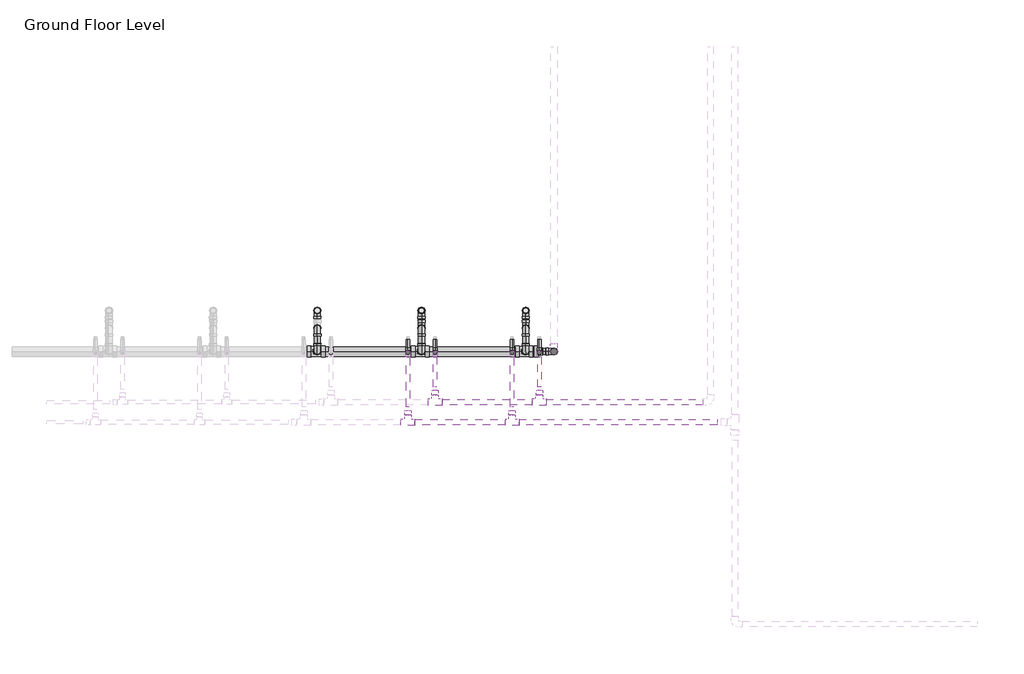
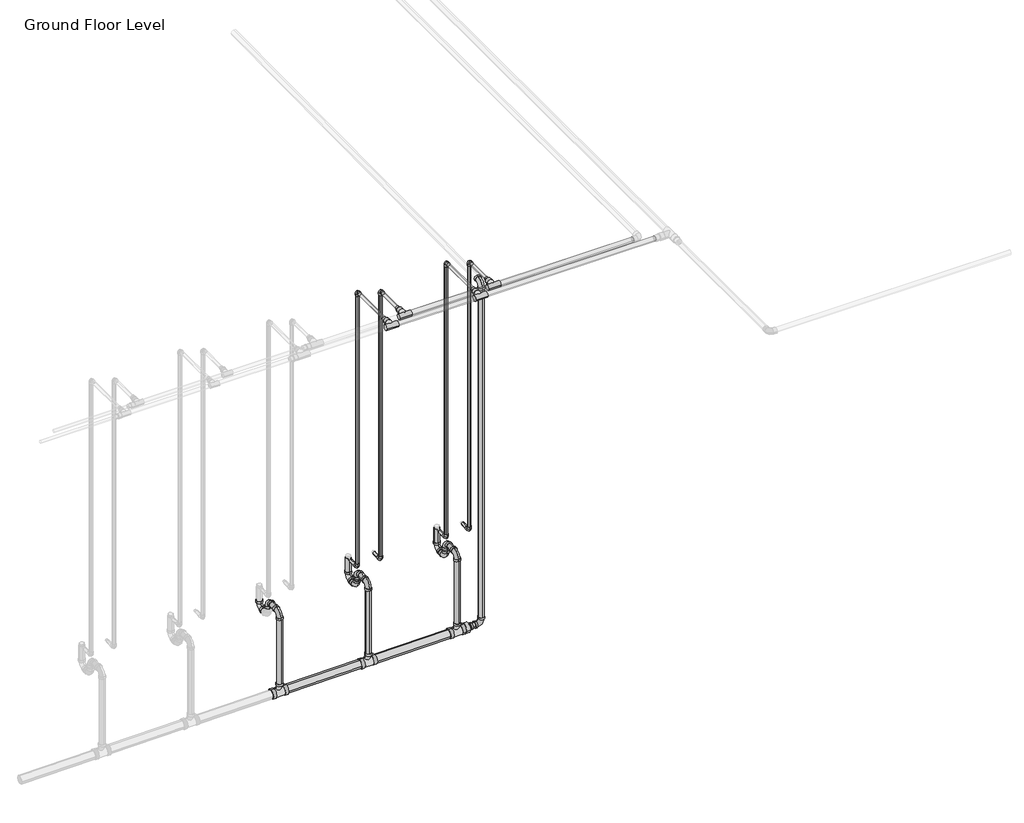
# One storey, part 41 of 74: 33 pipe fittings, 33 pipe segments.
"""IFC4 building model written with IfcOpenShell, lengths in millimetres."""

from ifc_helpers import new_model, si_unit, point, frame, frame_2d, origin, place, context, project, spatial, circle_curve, trimmed, segment, composite_curve, outline, extrude, transform, mapped, element, save
from components import m_bend_pvc_sch_40_dwv_standard_1e7bdcc1, m_bend_pvc_sch_40_dwv_standard_776e50c4, m_reducer_pvc_sch_40_dwv_standard_d6f2da47, m_tee_reducing_sanitary_pvc_sch_40_dwv_standard_21d2848c, standard_b266ab3f, standard_08ff6011, standard_83629b21

model = new_model("IFC4")

# Units and contexts
model_context = context("Model", 3, world=origin())
ifc_project = project(units=[si_unit("LENGTHUNIT", "METRE", prefix="MILLI")], contexts=[model_context])

# Site, building, storey
site = spatial("IfcSite", under=ifc_project)
building = spatial("IfcBuilding", under=site)
storey = spatial("IfcBuildingStorey", under=building, Name="Ground Floor Level", Elevation=900.0)

# Pipe fittings
placement = place(None, origin())
m_bend_pvc_sch_40_dwv_standard_shape = m_bend_pvc_sch_40_dwv_standard_1e7bdcc1(model_context)
element("IfcPipeFitting", 1, ObjectType="M_Bend - PVC - Sch 40 - DWV : Standard", at=placement, inside=storey, context=model_context, shape_type="MappedRepresentation", body=[
    mapped(m_bend_pvc_sch_40_dwv_standard_shape, transform((-17061.2502, 9143.7835646, 1498.2), x_axis=(0.0, -0.9999500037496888, -0.00999950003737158), y_axis=(0.0, 0.00999950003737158, -0.9999500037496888), z_axis=(1.0, 0.0, 0.0))),
])
element("IfcPipeFitting", 2, ObjectType="M_Bend - PVC - Sch 40 - DWV : Standard", at=placement, inside=storey, context=model_context, shape_type="MappedRepresentation", body=[
    mapped(m_bend_pvc_sch_40_dwv_standard_shape, transform((-17061.2502, 9458.7835646, 1360.0), x_axis=(0.0, 0.9999500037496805, 0.009999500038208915), y_axis=(0.0, -0.009999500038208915, 0.9999500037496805), z_axis=(1.0, 0.0, 0.0))),
])
element("IfcPipeFitting", 3, ObjectType="M_Bend - PVC - Sch 40 - DWV : Standard", at=placement, inside=storey, context=model_context, shape_type="MappedRepresentation", body=[
    mapped(m_bend_pvc_sch_40_dwv_standard_shape, transform((-17861.2502, 9458.7835646, 1360.0), x_axis=(0.0, 0.9999500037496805, 0.009999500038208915), y_axis=(0.0, -0.009999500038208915, 0.9999500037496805), z_axis=(1.0, 0.0, 0.0))),
])
element("IfcPipeFitting", 4, ObjectType="M_Bend - PVC - Sch 40 - DWV : Standard", at=placement, inside=storey, context=model_context, shape_type="MappedRepresentation", body=[
    mapped(m_bend_pvc_sch_40_dwv_standard_shape, transform((-18661.2502, 9458.7835646, 1360.0), x_axis=(0.0, 0.9999500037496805, 0.009999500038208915), y_axis=(0.0, -0.009999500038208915, 0.9999500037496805), z_axis=(1.0, 0.0, 0.0))),
])
element("IfcPipeFitting", 5, ObjectType="M_Bend - PVC - Sch 40 - DWV : Standard", at=placement, inside=storey, context=model_context, shape_type="MappedRepresentation", body=[
    mapped(m_bend_pvc_sch_40_dwv_standard_shape, transform((-17861.2502, 9143.7835646, 1498.2), x_axis=(0.0, -0.9999500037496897, -0.00999950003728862), y_axis=(0.0, 0.00999950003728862, -0.9999500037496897), z_axis=(1.0, 0.0, 0.0))),
])
element("IfcPipeFitting", 6, ObjectType="M_Bend - PVC - Sch 40 - DWV : Standard", at=placement, inside=storey, context=model_context, shape_type="MappedRepresentation", body=[
    mapped(m_bend_pvc_sch_40_dwv_standard_shape, transform((-18661.2502, 9143.7835646, 1498.2), x_axis=(0.0, -0.9999500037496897, -0.00999950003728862), y_axis=(0.0, 0.00999950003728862, -0.9999500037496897), z_axis=(1.0, 0.0, 0.0))),
])
element("IfcPipeFitting", 7, ObjectType="M_Bend - PVC - Sch 40 - DWV : Standard", at=placement, inside=storey, context=model_context, shape_type="MappedRepresentation", body=[
    mapped(m_bend_pvc_sch_40_dwv_standard_shape, transform((-16844.392952, 9143.7835646, 761.4231627), x_axis=(0.9999500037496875, 0.0, 0.009999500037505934), y_axis=(-0.009999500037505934, 0.0, 0.9999500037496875), z_axis=(0.0, -1.0, 0.0))),
])
element("IfcPipeFitting", 8, ObjectType="M_Bend - PVC - Sch 40 - DWV : Standard", at=placement, inside=storey, context=model_context, shape_type="MappedRepresentation", body=[
    mapped(m_bend_pvc_sch_40_dwv_standard_shape, transform((-16844.3158637, 9143.8485583, 4010.8006231), x_axis=(0.0, 0.0, 1.0), y_axis=(0.0, 1.0, 0.0), z_axis=(-1.0, 0.0, 0.0))),
])
m_bend_pvc_sch_40_dwv_standard_2_shape = m_bend_pvc_sch_40_dwv_standard_776e50c4(model_context)
element("IfcPipeFitting", 9, ObjectType="M_Bend - PVC - Sch 40 - DWV : Standard", at=placement, inside=storey, context=model_context, shape_type="MappedRepresentation", body=[
    mapped(m_bend_pvc_sch_40_dwv_standard_2_shape, transform((-17061.2502, 9323.7835646, 1358.65), x_axis=(0.0, -0.9999500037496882, -0.009999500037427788), y_axis=(0.0, -0.009999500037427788, 0.9999500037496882), z_axis=(-1.0, 0.0, 0.0))),
])
element("IfcPipeFitting", 10, ObjectType="M_Bend - PVC - Sch 40 - DWV : Standard", at=placement, inside=storey, context=model_context, shape_type="MappedRepresentation", body=[
    mapped(m_bend_pvc_sch_40_dwv_standard_2_shape, transform((-17061.2502, 9323.7835646, 1500.0), x_axis=(0.0, 0.0, 1.0), y_axis=(0.0, -1.0, 0.0), z_axis=(1.0, 0.0, 0.0))),
])
element("IfcPipeFitting", 11, ObjectType="M_Bend - PVC - Sch 40 - DWV : Standard", at=placement, inside=storey, context=model_context, shape_type="MappedRepresentation", body=[
    mapped(m_bend_pvc_sch_40_dwv_standard_2_shape, transform((-17861.2502, 9323.7835646, 1358.65), x_axis=(0.0, -0.9999500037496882, -0.009999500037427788), y_axis=(0.0, -0.009999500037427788, 0.9999500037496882), z_axis=(-1.0, 0.0, 0.0))),
])
element("IfcPipeFitting", 12, ObjectType="M_Bend - PVC - Sch 40 - DWV : Standard", at=placement, inside=storey, context=model_context, shape_type="MappedRepresentation", body=[
    mapped(m_bend_pvc_sch_40_dwv_standard_2_shape, transform((-17861.2502, 9323.7835646, 1500.0), x_axis=(0.0, 0.0, 1.0), y_axis=(0.0, -1.0, 0.0), z_axis=(1.0, 0.0, 0.0))),
])
element("IfcPipeFitting", 13, ObjectType="M_Bend - PVC - Sch 40 - DWV : Standard", at=placement, inside=storey, context=model_context, shape_type="MappedRepresentation", body=[
    mapped(m_bend_pvc_sch_40_dwv_standard_2_shape, transform((-18661.2502, 9323.7835646, 1500.0), x_axis=(0.0, 0.0, 1.0), y_axis=(0.0, -1.0, 0.0), z_axis=(1.0, 0.0, 0.0))),
])
m_reducer_pvc_sch_40_dwv_standard_shape = m_reducer_pvc_sch_40_dwv_standard_d6f2da47(model_context)
element("IfcPipeFitting", 14, ObjectType="M_Reducer - PVC - Sch 40 - DWV : Standard", at=placement, inside=storey, context=model_context, shape_type="MappedRepresentation", body=[
    mapped(m_reducer_pvc_sch_40_dwv_standard_shape, transform((-16997.2385884, 9143.7835646, 759.8947064), x_axis=(0.999950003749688, 0.0, 0.009999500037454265), y_axis=(0.0, 1.0000000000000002, 0.0), z_axis=(-0.009999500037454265, 0.0, 0.999950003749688))),
])
m_tee_reducing_sanitary_pvc_sch_40_dwv_standard_shape = m_tee_reducing_sanitary_pvc_sch_40_dwv_standard_21d2848c(model_context)
element("IfcPipeFitting", 15, ObjectType="M_Tee Reducing Sanitary - PVC - Sch 40 - DWV : Standard", at=placement, inside=storey, context=model_context, shape_type="MappedRepresentation", body=[
    mapped(m_tee_reducing_sanitary_pvc_sch_40_dwv_standard_shape, transform((-17061.2502, 9143.7835646, 759.2441999), x_axis=(0.9999500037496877, 0.0, 0.009999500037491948), y_axis=(0.009999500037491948, 0.0, -0.9999500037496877), z_axis=(0.0, 1.0, 0.0))),
])
element("IfcPipeFitting", 16, ObjectType="M_Tee Reducing Sanitary - PVC - Sch 40 - DWV : Standard", at=placement, inside=storey, context=model_context, shape_type="MappedRepresentation", body=[
    mapped(m_tee_reducing_sanitary_pvc_sch_40_dwv_standard_shape, transform((-17861.2502, 9143.7835646, 751.2441999), x_axis=(0.9999500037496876, 0.0, 0.00999950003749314), y_axis=(0.00999950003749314, 0.0, -0.9999500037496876), z_axis=(0.0, 1.0, 0.0))),
])
element("IfcPipeFitting", 17, ObjectType="M_Tee Reducing Sanitary - PVC - Sch 40 - DWV : Standard", at=placement, inside=storey, context=model_context, shape_type="MappedRepresentation", body=[
    mapped(m_tee_reducing_sanitary_pvc_sch_40_dwv_standard_shape, transform((-18661.2502, 9143.7835646, 743.2441999), x_axis=(0.9999500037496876, 0.0, 0.009999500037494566), y_axis=(0.009999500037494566, 0.0, -0.9999500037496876), z_axis=(0.0, 1.0, 0.0))),
])
standard_shape = standard_b266ab3f(model_context)
element("IfcPipeFitting", 18, ObjectType="M_Elbow - CPVC - Sch 40 : Standard", at=placement, inside=storey, context=model_context, shape_type="MappedRepresentation", body=[
    mapped(standard_shape, transform((-17756.7923674, 9135.2153534, 4250.0), x_axis=(0.0, 0.0, 1.0), y_axis=(0.0, -1.0, 0.0), z_axis=(1.0, 0.0, 0.0))),
])
element("IfcPipeFitting", 19, ObjectType="M_Elbow - CPVC - Sch 40 : Standard", at=placement, inside=storey, context=model_context, shape_type="MappedRepresentation", body=[
    mapped(standard_shape, transform((-16956.7923674, 9135.2153534, 4250.0), x_axis=(0.0, 0.0, 1.0), y_axis=(0.0, -1.0, 0.0), z_axis=(1.0, 0.0, 0.0))),
])
element("IfcPipeFitting", 20, ObjectType="M_Elbow - CPVC - Sch 40 : Standard", at=placement, inside=storey, context=model_context, shape_type="MappedRepresentation", body=[
    mapped(standard_shape, transform((-17965.4222086, 9135.2153534, 1690.0), x_axis=(0.0, 0.0, -1.0), y_axis=(0.0, 1.0, 0.0), z_axis=(1.0, 0.0, 0.0))),
])
element("IfcPipeFitting", 21, ObjectType="M_Elbow - CPVC - Sch 40 : Standard", at=placement, inside=storey, context=model_context, shape_type="MappedRepresentation", body=[
    mapped(standard_shape, transform((-17756.7923674, 9135.2153534, 1690.0), x_axis=(0.0, 0.0, -1.0), y_axis=(0.0, 1.0, 0.0), z_axis=(1.0, 0.0, 0.0))),
])
element("IfcPipeFitting", 22, ObjectType="M_Elbow - CPVC - Sch 40 : Standard", at=placement, inside=storey, context=model_context, shape_type="MappedRepresentation", body=[
    mapped(standard_shape, transform((-17165.4222086, 9135.2153534, 1690.0), x_axis=(0.0, 0.0, -1.0), y_axis=(-0.0014291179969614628, 0.999998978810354, 0.0), z_axis=(0.999998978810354, 0.0014291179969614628, 0.0))),
])
element("IfcPipeFitting", 23, ObjectType="M_Elbow - CPVC - Sch 40 : Standard", at=placement, inside=storey, context=model_context, shape_type="MappedRepresentation", body=[
    mapped(standard_shape, transform((-16956.7923674, 9135.2153534, 1690.0), x_axis=(0.0, 0.0, -1.0), y_axis=(-0.00142911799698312, 0.9999989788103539, 0.0), z_axis=(0.9999989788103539, 0.00142911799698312, 0.0))),
])
element("IfcPipeFitting", 24, ObjectType="M_Elbow - CPVC - Sch 40 : Standard", at=placement, inside=storey, context=model_context, shape_type="MappedRepresentation", body=[
    mapped(standard_shape, transform((-17165.4222086, 9135.2153534, 4315.0), x_axis=(0.0, 0.0, 1.0), y_axis=(0.0, -1.0, 0.0), z_axis=(1.0, 0.0, 0.0))),
])
element("IfcPipeFitting", 25, ObjectType="M_Elbow - CPVC - Sch 40 : Standard", at=placement, inside=storey, context=model_context, shape_type="MappedRepresentation", body=[
    mapped(standard_shape, transform((-17965.4222086, 9135.2153534, 4315.0), x_axis=(0.0, 0.0, 1.0), y_axis=(0.0, -1.0, 0.0), z_axis=(1.0, 0.0, 0.0))),
])
standard_2_shape = standard_08ff6011(model_context)
element("IfcPipeFitting", 26, ObjectType="M_Tee - CPVC - Sch 40 : Standard", at=placement, inside=storey, context=model_context, shape_type="MappedRepresentation", body=[
    mapped(standard_2_shape, transform((-17165.4222086, 8599.9071734, 4315.0), x_axis=(1.0, 0.0, 0.0), y_axis=(0.0, -1.0, 0.0), z_axis=(0.0, 0.0, -1.0))),
])
element("IfcPipeFitting", 27, ObjectType="M_Tee - CPVC - Sch 40 : Standard", at=placement, inside=storey, context=model_context, shape_type="MappedRepresentation", body=[
    mapped(standard_2_shape, transform((-17965.4222086, 8599.9071734, 4315.0), x_axis=(1.0, 0.0, 0.0), y_axis=(0.0, -1.0, 0.0), z_axis=(0.0, 0.0, -1.0))),
])
element("IfcPipeFitting", 28, ObjectType="M_Tee - CPVC - Sch 40 : Standard", at=placement, inside=storey, context=model_context, shape_type="MappedRepresentation", body=[
    mapped(standard_2_shape, transform((-17756.7923674, 8755.2153534, 4250.0), x_axis=(-1.0, 0.0, 0.0), y_axis=(0.0, -1.0, 0.0), z_axis=(0.0, 0.0, 1.0))),
])
element("IfcPipeFitting", 29, ObjectType="M_Tee - CPVC - Sch 40 : Standard", at=placement, inside=storey, context=model_context, shape_type="MappedRepresentation", body=[
    mapped(standard_2_shape, transform((-16956.7923674, 8755.2153534, 4250.0), x_axis=(-1.0, 0.0, 0.0), y_axis=(0.0, -1.0, 0.0), z_axis=(0.0, 0.0, 1.0))),
])
standard_3_shape = standard_83629b21(model_context)
element("IfcPipeFitting", 30, ObjectType="M_Coupling Reducing - CPVC - Sch 40 : Standard", at=placement, inside=storey, context=model_context, shape_type="MappedRepresentation", body=[
    mapped(standard_3_shape, transform((-17165.4222086, 8653.8821734, 4315.0), x_axis=(0.0, 1.0, 0.0), y_axis=(-1.0, 0.0, 0.0), z_axis=(0.0, 0.0, 1.0))),
])
element("IfcPipeFitting", 31, ObjectType="M_Coupling Reducing - CPVC - Sch 40 : Standard", at=placement, inside=storey, context=model_context, shape_type="MappedRepresentation", body=[
    mapped(standard_3_shape, transform((-17965.4222086, 8653.8821734, 4315.0), x_axis=(0.0, 1.0, 0.0), y_axis=(-1.0, 0.0, 0.0), z_axis=(0.0, 0.0, 1.0))),
])
element("IfcPipeFitting", 32, ObjectType="M_Coupling Reducing - CPVC - Sch 40 : Standard", at=placement, inside=storey, context=model_context, shape_type="MappedRepresentation", body=[
    mapped(standard_3_shape, transform((-17756.7923674, 8809.1903534, 4250.0), x_axis=(0.0, 1.0, 0.0), y_axis=(-1.0, 0.0, 0.0), z_axis=(0.0, 0.0, 1.0))),
])
element("IfcPipeFitting", 33, ObjectType="M_Coupling Reducing - CPVC - Sch 40 : Standard", at=placement, inside=storey, context=model_context, shape_type="MappedRepresentation", body=[
    mapped(standard_3_shape, transform((-16956.7923674, 8809.1903534, 4250.0), x_axis=(0.0, 1.0, 0.0), y_axis=(-1.0, 0.0, 0.0), z_axis=(0.0, 0.0, 1.0))),
])

# Pipe segments
element("IfcPipeSegment", 34, ObjectType="CPVC", at=placement, inside=storey, context=model_context, shape_type="SweptSolid", body=[
    extrude(outline(composite_curve([segment(trimmed(circle_curve(frame_2d((0.0, 13.335)), 13.335), [point((13.335, 13.335))], [point((0.0, 0.0))], False, "CARTESIAN"), True, "CONTINUOUS"), segment(trimmed(circle_curve(frame_2d((0.0, 13.335)), 13.335), [point((0.0, 0.0))], [point((-13.3350001, 13.335))], False, "CARTESIAN"), True, "CONTINUOUS"), segment(trimmed(circle_curve(frame_2d((0.0, 13.335)), 13.335), [point((-13.3350001, 13.335))], [point((0.0, 26.67))], False, "CARTESIAN"), True, "CONTINUOUS"), segment(trimmed(circle_curve(frame_2d((0.0, 13.335)), 13.335), [point((0.0, 26.67))], [point((13.335, 13.335))], False, "CARTESIAN"), True, "CONTINUOUS")], self_intersect=False)), frame((-17965.4222086, 9170.5404034, 1703.335), z_axis=(-0.0022096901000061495, 0.9999975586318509, 0.0), x_axis=(0.9999975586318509, 0.0022096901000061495, 0.0)), (0.0, 0.0, 1.0), 64.6751079),
])
element("IfcPipeSegment", 35, ObjectType="CPVC", at=placement, inside=storey, context=model_context, shape_type="SweptSolid", body=[
    extrude(outline(composite_curve([segment(trimmed(circle_curve(frame_2d((4315.0, -17965.4222086)), 13.335), [point((4315.0, -17978.7572086))], [point((4301.665, -17965.4222086))], False, "CARTESIAN"), True, "CONTINUOUS"), segment(trimmed(circle_curve(frame_2d((4315.0, -17965.4222086)), 13.335), [point((4301.665, -17965.4222086))], [point((4315.0, -17952.0872086))], False, "CARTESIAN"), True, "CONTINUOUS"), segment(trimmed(circle_curve(frame_2d((4315.0, -17965.4222086)), 13.335), [point((4315.0, -17952.0872086))], [point((4328.335, -17965.4222086))], False, "CARTESIAN"), True, "CONTINUOUS"), segment(trimmed(circle_curve(frame_2d((4315.0, -17965.4222086)), 13.335), [point((4328.335, -17965.4222086))], [point((4315.0, -17978.7572086))], False, "CARTESIAN"), True, "CONTINUOUS")], self_intersect=False)), frame((0.0, 8716.6990484, 0.0), z_axis=(0.0, 1.0, 0.0), x_axis=(0.0, 0.0, 1.0)), (0.0, 0.0, 1.0), 383.191255),
])
element("IfcPipeSegment", 36, ObjectType="CPVC", at=placement, inside=storey, context=model_context, shape_type="SweptSolid", body=[
    extrude(outline(composite_curve([segment(trimmed(circle_curve(frame_2d((-17965.4222086, 9135.2153534)), 13.335), [point((-17978.7572086, 9135.2153534))], [point((-17965.4222086, 9148.5503534))], False, "CARTESIAN"), True, "CONTINUOUS"), segment(trimmed(circle_curve(frame_2d((-17965.4222086, 9135.2153534)), 13.335), [point((-17965.4222086, 9148.5503534))], [point((-17952.0872086, 9135.2153534))], False, "CARTESIAN"), True, "CONTINUOUS"), segment(trimmed(circle_curve(frame_2d((-17965.4222086, 9135.2153534)), 13.335), [point((-17952.0872086, 9135.2153534))], [point((-17965.4222086, 9121.8803534))], False, "CARTESIAN"), True, "CONTINUOUS"), segment(trimmed(circle_curve(frame_2d((-17965.4222086, 9135.2153534)), 13.335), [point((-17965.4222086, 9121.8803534))], [point((-17978.7572086, 9135.2153534))], False, "CARTESIAN"), True, "CONTINUOUS")], self_intersect=False)), frame((0.0, 0.0, 1725.32505), z_axis=(0.0, 0.0, 1.0), x_axis=(1.0, 0.0, 0.0)), (0.0, 0.0, 1.0), 2554.3499),
])
element("IfcPipeSegment", 37, ObjectType="CPVC", at=placement, inside=storey, context=model_context, shape_type="SweptSolid", body=[
    extrude(outline(composite_curve([segment(trimmed(circle_curve(frame_2d((0.0, 13.335)), 13.335), [point((13.335, 13.335))], [point((0.0, 0.0))], False, "CARTESIAN"), True, "CONTINUOUS"), segment(trimmed(circle_curve(frame_2d((0.0, 13.335)), 13.335), [point((0.0, 0.0))], [point((-13.3350001, 13.335))], False, "CARTESIAN"), True, "CONTINUOUS"), segment(trimmed(circle_curve(frame_2d((0.0, 13.335)), 13.335), [point((-13.3350001, 13.335))], [point((0.0, 26.67))], False, "CARTESIAN"), True, "CONTINUOUS"), segment(trimmed(circle_curve(frame_2d((0.0, 13.335)), 13.335), [point((0.0, 26.67))], [point((13.335, 13.335))], False, "CARTESIAN"), True, "CONTINUOUS")], self_intersect=False)), frame((-17756.7923674, 9170.5404034, 1703.335), z_axis=(-0.002209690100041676, 0.9999975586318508, 0.0), x_axis=(0.9999975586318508, 0.002209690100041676, 0.0)), (0.0, 0.0, 1.0), 64.6751079),
])
element("IfcPipeSegment", 38, ObjectType="CPVC", at=placement, inside=storey, context=model_context, shape_type="SweptSolid", body=[
    extrude(outline(composite_curve([segment(trimmed(circle_curve(frame_2d((4250.0, -17756.7923674)), 13.335), [point((4250.0, -17770.1273674))], [point((4236.665, -17756.7923674))], False, "CARTESIAN"), True, "CONTINUOUS"), segment(trimmed(circle_curve(frame_2d((4250.0, -17756.7923674)), 13.335), [point((4236.665, -17756.7923674))], [point((4250.0, -17743.4573674))], False, "CARTESIAN"), True, "CONTINUOUS"), segment(trimmed(circle_curve(frame_2d((4250.0, -17756.7923674)), 13.335), [point((4250.0, -17743.4573674))], [point((4263.335, -17756.7923674))], False, "CARTESIAN"), True, "CONTINUOUS"), segment(trimmed(circle_curve(frame_2d((4250.0, -17756.7923674)), 13.335), [point((4263.335, -17756.7923674))], [point((4250.0, -17770.1273674))], False, "CARTESIAN"), True, "CONTINUOUS")], self_intersect=False)), frame((0.0, 8872.0072284, 0.0), z_axis=(0.0, 1.0, 0.0), x_axis=(0.0, 0.0, 1.0)), (0.0, 0.0, 1.0), 227.883075),
])
element("IfcPipeSegment", 39, ObjectType="CPVC", at=placement, inside=storey, context=model_context, shape_type="SweptSolid", body=[
    extrude(outline(composite_curve([segment(trimmed(circle_curve(frame_2d((-17756.7923674, 9135.2153534)), 13.335), [point((-17770.1273674, 9135.2153534))], [point((-17756.7923674, 9148.5503534))], False, "CARTESIAN"), True, "CONTINUOUS"), segment(trimmed(circle_curve(frame_2d((-17756.7923674, 9135.2153534)), 13.335), [point((-17756.7923674, 9148.5503534))], [point((-17743.4573674, 9135.2153534))], False, "CARTESIAN"), True, "CONTINUOUS"), segment(trimmed(circle_curve(frame_2d((-17756.7923674, 9135.2153534)), 13.335), [point((-17743.4573674, 9135.2153534))], [point((-17756.7923674, 9121.8803534))], False, "CARTESIAN"), True, "CONTINUOUS"), segment(trimmed(circle_curve(frame_2d((-17756.7923674, 9135.2153534)), 13.335), [point((-17756.7923674, 9121.8803534))], [point((-17770.1273674, 9135.2153534))], False, "CARTESIAN"), True, "CONTINUOUS")], self_intersect=False)), frame((0.0, 0.0, 1725.32505), z_axis=(0.0, 0.0, 1.0), x_axis=(1.0, 0.0, 0.0)), (0.0, 0.0, 1.0), 2489.3499),
])
element("IfcPipeSegment", 40, ObjectType="CPVC", at=placement, inside=storey, context=model_context, shape_type="SweptSolid", body=[
    extrude(outline(composite_curve([segment(trimmed(circle_curve(frame_2d((0.0, 13.335)), 13.335), [point((0.0, 26.67))], [point((13.335, 13.335))], False, "CARTESIAN"), True, "CONTINUOUS"), segment(trimmed(circle_curve(frame_2d((0.0, 13.335)), 13.335), [point((13.335, 13.335))], [point((0.0, 0.0))], False, "CARTESIAN"), True, "CONTINUOUS"), segment(trimmed(circle_curve(frame_2d((0.0, 13.335)), 13.335), [point((0.0, 0.0))], [point((-13.335, 13.335))], False, "CARTESIAN"), True, "CONTINUOUS"), segment(trimmed(circle_curve(frame_2d((0.0, 13.335)), 13.335), [point((-13.335, 13.335))], [point((0.0, 26.67))], False, "CARTESIAN"), True, "CONTINUOUS")], self_intersect=False)), frame((-17178.8076787, 9170.52131, 1690.0), z_axis=(-0.0014291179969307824, 0.999998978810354, 0.0), x_axis=(0.0, 0.0, 1.0)), (0.0, 0.0, 1.0), 64.6750521),
])
element("IfcPipeSegment", 41, ObjectType="CPVC", at=placement, inside=storey, context=model_context, shape_type="SweptSolid", body=[
    extrude(outline(composite_curve([segment(trimmed(circle_curve(frame_2d((4315.0, -17165.4222086)), 13.335), [point((4315.0, -17178.7572086))], [point((4301.665, -17165.4222086))], False, "CARTESIAN"), True, "CONTINUOUS"), segment(trimmed(circle_curve(frame_2d((4315.0, -17165.4222086)), 13.335), [point((4301.665, -17165.4222086))], [point((4315.0, -17152.0872086))], False, "CARTESIAN"), True, "CONTINUOUS"), segment(trimmed(circle_curve(frame_2d((4315.0, -17165.4222086)), 13.335), [point((4315.0, -17152.0872086))], [point((4328.335, -17165.4222086))], False, "CARTESIAN"), True, "CONTINUOUS"), segment(trimmed(circle_curve(frame_2d((4315.0, -17165.4222086)), 13.335), [point((4328.335, -17165.4222086))], [point((4315.0, -17178.7572086))], False, "CARTESIAN"), True, "CONTINUOUS")], self_intersect=False)), frame((0.0, 8716.6990484, 0.0), z_axis=(0.0, 1.0, 0.0), x_axis=(0.0, 0.0, 1.0)), (0.0, 0.0, 1.0), 383.191255),
])
element("IfcPipeSegment", 42, ObjectType="CPVC", at=placement, inside=storey, context=model_context, shape_type="SweptSolid", body=[
    extrude(outline(composite_curve([segment(trimmed(circle_curve(frame_2d((-17165.4222086, 9135.2153534)), 13.335), [point((-17178.7572086, 9135.2153534))], [point((-17165.4222086, 9148.5503534))], False, "CARTESIAN"), True, "CONTINUOUS"), segment(trimmed(circle_curve(frame_2d((-17165.4222086, 9135.2153534)), 13.335), [point((-17165.4222086, 9148.5503534))], [point((-17152.0872086, 9135.2153534))], False, "CARTESIAN"), True, "CONTINUOUS"), segment(trimmed(circle_curve(frame_2d((-17165.4222086, 9135.2153534)), 13.335), [point((-17152.0872086, 9135.2153534))], [point((-17165.4222086, 9121.8803534))], False, "CARTESIAN"), True, "CONTINUOUS"), segment(trimmed(circle_curve(frame_2d((-17165.4222086, 9135.2153534)), 13.335), [point((-17165.4222086, 9121.8803534))], [point((-17178.7572086, 9135.2153534))], False, "CARTESIAN"), True, "CONTINUOUS")], self_intersect=False)), frame((0.0, 0.0, 1725.32505), z_axis=(0.0, 0.0, 1.0), x_axis=(1.0, 0.0, 0.0)), (0.0, 0.0, 1.0), 2554.3499),
])
element("IfcPipeSegment", 43, ObjectType="CPVC", at=placement, inside=storey, context=model_context, shape_type="SweptSolid", body=[
    extrude(outline(composite_curve([segment(trimmed(circle_curve(frame_2d((0.0, 13.335)), 13.335), [point((0.0, 26.67))], [point((13.335, 13.335))], False, "CARTESIAN"), True, "CONTINUOUS"), segment(trimmed(circle_curve(frame_2d((0.0, 13.335)), 13.335), [point((13.335, 13.335))], [point((0.0, 0.0))], False, "CARTESIAN"), True, "CONTINUOUS"), segment(trimmed(circle_curve(frame_2d((0.0, 13.335)), 13.335), [point((0.0, 0.0))], [point((-13.335, 13.335))], False, "CARTESIAN"), True, "CONTINUOUS"), segment(trimmed(circle_curve(frame_2d((0.0, 13.335)), 13.335), [point((-13.335, 13.335))], [point((0.0, 26.67))], False, "CARTESIAN"), True, "CONTINUOUS")], self_intersect=False)), frame((-16970.1778375, 9170.52131, 1690.0), z_axis=(-0.0014291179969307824, 0.999998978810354, 0.0), x_axis=(0.0, 0.0, 1.0)), (0.0, 0.0, 1.0), 64.6750521),
])
element("IfcPipeSegment", 44, ObjectType="CPVC", at=placement, inside=storey, context=model_context, shape_type="SweptSolid", body=[
    extrude(outline(composite_curve([segment(trimmed(circle_curve(frame_2d((4250.0, -16956.7923674)), 13.335), [point((4250.0, -16970.1273674))], [point((4236.665, -16956.7923674))], False, "CARTESIAN"), True, "CONTINUOUS"), segment(trimmed(circle_curve(frame_2d((4250.0, -16956.7923674)), 13.335), [point((4236.665, -16956.7923674))], [point((4250.0, -16943.4573674))], False, "CARTESIAN"), True, "CONTINUOUS"), segment(trimmed(circle_curve(frame_2d((4250.0, -16956.7923674)), 13.335), [point((4250.0, -16943.4573674))], [point((4263.335, -16956.7923674))], False, "CARTESIAN"), True, "CONTINUOUS"), segment(trimmed(circle_curve(frame_2d((4250.0, -16956.7923674)), 13.335), [point((4263.335, -16956.7923674))], [point((4250.0, -16970.1273674))], False, "CARTESIAN"), True, "CONTINUOUS")], self_intersect=False)), frame((0.0, 8872.0072284, 0.0), z_axis=(0.0, 1.0, 0.0), x_axis=(0.0, 0.0, 1.0)), (0.0, 0.0, 1.0), 227.883075),
])
element("IfcPipeSegment", 45, ObjectType="CPVC", at=placement, inside=storey, context=model_context, shape_type="SweptSolid", body=[
    extrude(outline(composite_curve([segment(trimmed(circle_curve(frame_2d((-16956.7923674, 9135.2153534)), 13.335), [point((-16970.1273674, 9135.2153534))], [point((-16956.7923674, 9148.5503534))], False, "CARTESIAN"), True, "CONTINUOUS"), segment(trimmed(circle_curve(frame_2d((-16956.7923674, 9135.2153534)), 13.335), [point((-16956.7923674, 9148.5503534))], [point((-16943.4573674, 9135.2153534))], False, "CARTESIAN"), True, "CONTINUOUS"), segment(trimmed(circle_curve(frame_2d((-16956.7923674, 9135.2153534)), 13.335), [point((-16943.4573674, 9135.2153534))], [point((-16956.7923674, 9121.8803534))], False, "CARTESIAN"), True, "CONTINUOUS"), segment(trimmed(circle_curve(frame_2d((-16956.7923674, 9135.2153534)), 13.335), [point((-16956.7923674, 9121.8803534))], [point((-16970.1273674, 9135.2153534))], False, "CARTESIAN"), True, "CONTINUOUS")], self_intersect=False)), frame((0.0, 0.0, 1725.32505), z_axis=(0.0, 0.0, 1.0), x_axis=(1.0, 0.0, 0.0)), (0.0, 0.0, 1.0), 2489.3499),
])
element("IfcPipeSegment", 46, ObjectType="CPVC", at=placement, inside=storey, context=model_context, shape_type="SweptSolid", body=[
    extrude(outline(composite_curve([segment(trimmed(circle_curve(frame_2d((8599.9071734, 4315.0)), 21.082), [point((8620.9891734, 4315.0))], [point((8599.9071734, 4293.918))], False, "CARTESIAN"), True, "CONTINUOUS"), segment(trimmed(circle_curve(frame_2d((8599.9071734, 4315.0)), 21.082), [point((8599.9071734, 4293.918))], [point((8578.8251734, 4315.0))], False, "CARTESIAN"), True, "CONTINUOUS"), segment(trimmed(circle_curve(frame_2d((8599.9071734, 4315.0)), 21.082), [point((8578.8251734, 4315.0))], [point((8599.9071734, 4336.082))], False, "CARTESIAN"), True, "CONTINUOUS"), segment(trimmed(circle_curve(frame_2d((8599.9071734, 4315.0)), 21.082), [point((8599.9071734, 4336.082))], [point((8620.9891734, 4315.0))], False, "CARTESIAN"), True, "CONTINUOUS")], self_intersect=False)), frame((-17111.4472086, 0.0, 0.0), z_axis=(1.0, 0.0, 0.0), x_axis=(0.0, 1.0, 0.0)), (0.0, 0.0, 1.0), 1519.3174288),
])
element("IfcPipeSegment", 47, ObjectType="CPVC", at=placement, inside=storey, context=model_context, shape_type="SweptSolid", body=[
    extrude(outline(composite_curve([segment(trimmed(circle_curve(frame_2d((8599.9071734, 4315.0)), 21.082), [point((8620.9891734, 4315.0))], [point((8599.9071734, 4293.918))], False, "CARTESIAN"), True, "CONTINUOUS"), segment(trimmed(circle_curve(frame_2d((8599.9071734, 4315.0)), 21.082), [point((8599.9071734, 4293.918))], [point((8578.8251734, 4315.0))], False, "CARTESIAN"), True, "CONTINUOUS"), segment(trimmed(circle_curve(frame_2d((8599.9071734, 4315.0)), 21.082), [point((8578.8251734, 4315.0))], [point((8599.9071734, 4336.082))], False, "CARTESIAN"), True, "CONTINUOUS"), segment(trimmed(circle_curve(frame_2d((8599.9071734, 4315.0)), 21.082), [point((8599.9071734, 4336.082))], [point((8620.9891734, 4315.0))], False, "CARTESIAN"), True, "CONTINUOUS")], self_intersect=False)), frame((-17911.4472086, 0.0, 0.0), z_axis=(1.0, 0.0, 0.0), x_axis=(0.0, 1.0, 0.0)), (0.0, 0.0, 1.0), 692.05),
])
element("IfcPipeSegment", 48, ObjectType="CPVC", at=placement, inside=storey, context=model_context, shape_type="SweptSolid", body=[
    extrude(outline(composite_curve([segment(trimmed(circle_curve(frame_2d((8755.2153534, 4250.0)), 21.082), [point((8734.1333534, 4250.0))], [point((8755.2153534, 4271.082))], False, "CARTESIAN"), True, "CONTINUOUS"), segment(trimmed(circle_curve(frame_2d((8755.2153534, 4250.0)), 21.082), [point((8755.2153534, 4271.082))], [point((8776.2973534, 4250.0))], False, "CARTESIAN"), True, "CONTINUOUS"), segment(trimmed(circle_curve(frame_2d((8755.2153534, 4250.0)), 21.082), [point((8776.2973534, 4250.0))], [point((8755.2153534, 4228.918))], False, "CARTESIAN"), True, "CONTINUOUS"), segment(trimmed(circle_curve(frame_2d((8755.2153534, 4250.0)), 21.082), [point((8755.2153534, 4228.918))], [point((8734.1333534, 4250.0))], False, "CARTESIAN"), True, "CONTINUOUS")], self_intersect=False)), frame((-16902.8173674, 0.0, 0.0), z_axis=(1.0, 0.0, 0.0), x_axis=(0.0, 1.0, 0.0)), (0.0, 0.0, 1.0), 1202.05625),
])
element("IfcPipeSegment", 49, ObjectType="CPVC", at=placement, inside=storey, context=model_context, shape_type="SweptSolid", body=[
    extrude(outline(composite_curve([segment(trimmed(circle_curve(frame_2d((8755.2153534, 4250.0)), 21.082), [point((8734.1333534, 4250.0))], [point((8755.2153534, 4271.082))], False, "CARTESIAN"), True, "CONTINUOUS"), segment(trimmed(circle_curve(frame_2d((8755.2153534, 4250.0)), 21.082), [point((8755.2153534, 4271.082))], [point((8776.2973534, 4250.0))], False, "CARTESIAN"), True, "CONTINUOUS"), segment(trimmed(circle_curve(frame_2d((8755.2153534, 4250.0)), 21.082), [point((8776.2973534, 4250.0))], [point((8755.2153534, 4228.918))], False, "CARTESIAN"), True, "CONTINUOUS"), segment(trimmed(circle_curve(frame_2d((8755.2153534, 4250.0)), 21.082), [point((8755.2153534, 4228.918))], [point((8734.1333534, 4250.0))], False, "CARTESIAN"), True, "CONTINUOUS")], self_intersect=False)), frame((-17702.8173674, 0.0, 0.0), z_axis=(1.0, 0.0, 0.0), x_axis=(0.0, 1.0, 0.0)), (0.0, 0.0, 1.0), 692.05),
])
element("IfcPipeSegment", 50, ObjectType="PVC - DWV", at=placement, inside=storey, context=model_context, shape_type="SweptSolid", body=[
    extrude(outline(composite_curve([segment(trimmed(circle_curve(frame_2d((-17061.2502, 9458.7835646)), 24.13), [point((-17085.3802, 9458.7835646))], [point((-17061.2502, 9482.9135646))], False, "CARTESIAN"), True, "CONTINUOUS"), segment(trimmed(circle_curve(frame_2d((-17061.2502, 9458.7835646)), 24.13), [point((-17061.2502, 9482.9135646))], [point((-17037.1202, 9458.7835646))], False, "CARTESIAN"), True, "CONTINUOUS"), segment(trimmed(circle_curve(frame_2d((-17061.2502, 9458.7835646)), 24.13), [point((-17037.1202, 9458.7835646))], [point((-17061.2502, 9434.6535646))], False, "CARTESIAN"), True, "CONTINUOUS"), segment(trimmed(circle_curve(frame_2d((-17061.2502, 9458.7835646)), 24.13), [point((-17061.2502, 9434.6535646))], [point((-17085.3802, 9458.7835646))], False, "CARTESIAN"), True, "CONTINUOUS")], self_intersect=False)), frame((0.0, 0.0, 1421.8998), z_axis=(0.0, 0.0, 1.0), x_axis=(1.0, 0.0, 0.0)), (0.0, 0.0, 1.0), 128.1002),
])
element("IfcPipeSegment", 51, ObjectType="PVC - DWV", at=placement, inside=storey, context=model_context, shape_type="SweptSolid", body=[
    extrude(outline(composite_curve([segment(trimmed(circle_curve(frame_2d((0.0, -24.13)), 24.13), [point((-24.13, -24.13))], [point((0.0, 0.0))], False, "CARTESIAN"), True, "CONTINUOUS"), segment(trimmed(circle_curve(frame_2d((0.0, -24.13)), 24.13), [point((0.0, 0.0))], [point((24.13, -24.13))], False, "CARTESIAN"), True, "CONTINUOUS"), segment(trimmed(circle_curve(frame_2d((0.0, -24.13)), 24.13), [point((24.13, -24.13))], [point((0.0, -48.2599999))], False, "CARTESIAN"), True, "CONTINUOUS"), segment(trimmed(circle_curve(frame_2d((0.0, -24.13)), 24.13), [point((0.0, -48.2599999))], [point((-24.13, -24.13))], False, "CARTESIAN"), True, "CONTINUOUS")], self_intersect=False)), frame((-17061.2502, 9385.9215577, 1335.1401735), z_axis=(0.0, 0.9999500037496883, 0.009999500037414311), x_axis=(1.0, 0.0, 0.0)), (0.0, 0.0, 1.0), 11.2071498),
])
element("IfcPipeSegment", 52, ObjectType="PVC - DWV", at=placement, inside=storey, context=model_context, shape_type="SweptSolid", body=[
    extrude(outline(composite_curve([segment(trimmed(circle_curve(frame_2d((-17061.2502, 9323.7835646)), 24.13), [point((-17085.3802, 9323.7835646))], [point((-17061.2502, 9347.9135646))], False, "CARTESIAN"), True, "CONTINUOUS"), segment(trimmed(circle_curve(frame_2d((-17061.2502, 9323.7835646)), 24.13), [point((-17061.2502, 9347.9135646))], [point((-17037.1202, 9323.7835646))], False, "CARTESIAN"), True, "CONTINUOUS"), segment(trimmed(circle_curve(frame_2d((-17061.2502, 9323.7835646)), 24.13), [point((-17037.1202, 9323.7835646))], [point((-17061.2502, 9299.6535646))], False, "CARTESIAN"), True, "CONTINUOUS"), segment(trimmed(circle_curve(frame_2d((-17061.2502, 9323.7835646)), 24.13), [point((-17061.2502, 9299.6535646))], [point((-17085.3802, 9323.7835646))], False, "CARTESIAN"), True, "CONTINUOUS")], self_intersect=False)), frame((0.0, 0.0, 1420.5498), z_axis=(0.0, 0.0, 1.0), x_axis=(1.0, 0.0, 0.0)), (0.0, 0.0, 1.0), 17.5504),
])
element("IfcPipeSegment", 53, ObjectType="PVC - DWV", at=placement, inside=storey, context=model_context, shape_type="SweptSolid", body=[
    extrude(outline(composite_curve([segment(trimmed(circle_curve(frame_2d((0.0, -24.13)), 24.13), [point((-24.13, -24.13))], [point((0.0, 0.0))], False, "CARTESIAN"), True, "CONTINUOUS"), segment(trimmed(circle_curve(frame_2d((0.0, -24.13)), 24.13), [point((0.0, 0.0))], [point((24.13, -24.13))], False, "CARTESIAN"), True, "CONTINUOUS"), segment(trimmed(circle_curve(frame_2d((0.0, -24.13)), 24.13), [point((24.13, -24.13))], [point((0.0, -48.2599999))], False, "CARTESIAN"), True, "CONTINUOUS"), segment(trimmed(circle_curve(frame_2d((0.0, -24.13)), 24.13), [point((0.0, -48.2599999))], [point((-24.13, -24.13))], False, "CARTESIAN"), True, "CONTINUOUS")], self_intersect=False)), frame((-17061.2502, 9205.9215577, 1474.6901735), z_axis=(0.0, 0.9999500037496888, 0.009999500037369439), x_axis=(1.0, 0.0, 0.0)), (0.0, 0.0, 1.0), 56.2093998),
])
element("IfcPipeSegment", 54, ObjectType="PVC - DWV", at=placement, inside=storey, context=model_context, shape_type="SweptSolid", body=[
    extrude(outline(composite_curve([segment(trimmed(circle_curve(frame_2d((-17061.2502, 9143.7835646)), 24.13), [point((-17037.1202, 9143.7835646))], [point((-17061.2502, 9119.6535646))], False, "CARTESIAN"), True, "CONTINUOUS"), segment(trimmed(circle_curve(frame_2d((-17061.2502, 9143.7835646)), 24.13), [point((-17061.2502, 9119.6535646))], [point((-17085.3802, 9143.7835646))], False, "CARTESIAN"), True, "CONTINUOUS"), segment(trimmed(circle_curve(frame_2d((-17061.2502, 9143.7835646)), 24.13), [point((-17085.3802, 9143.7835646))], [point((-17061.2502, 9167.9135646))], False, "CARTESIAN"), True, "CONTINUOUS"), segment(trimmed(circle_curve(frame_2d((-17061.2502, 9143.7835646)), 24.13), [point((-17061.2502, 9167.9135646))], [point((-17037.1202, 9143.7835646))], False, "CARTESIAN"), True, "CONTINUOUS")], self_intersect=False)), frame((0.0, 0.0, 840.0916561), z_axis=(0.0, 0.0, 1.0), x_axis=(1.0, 0.0, 0.0)), (0.0, 0.0, 1.0), 596.2085439),
])
element("IfcPipeSegment", 55, ObjectType="PVC - DWV", at=placement, inside=storey, context=model_context, shape_type="SweptSolid", body=[
    extrude(outline(composite_curve([segment(trimmed(circle_curve(frame_2d((-17861.2502, 9458.7835646)), 24.13), [point((-17885.3802, 9458.7835646))], [point((-17861.2502, 9482.9135646))], False, "CARTESIAN"), True, "CONTINUOUS"), segment(trimmed(circle_curve(frame_2d((-17861.2502, 9458.7835646)), 24.13), [point((-17861.2502, 9482.9135646))], [point((-17837.1202, 9458.7835646))], False, "CARTESIAN"), True, "CONTINUOUS"), segment(trimmed(circle_curve(frame_2d((-17861.2502, 9458.7835646)), 24.13), [point((-17837.1202, 9458.7835646))], [point((-17861.2502, 9434.6535646))], False, "CARTESIAN"), True, "CONTINUOUS"), segment(trimmed(circle_curve(frame_2d((-17861.2502, 9458.7835646)), 24.13), [point((-17861.2502, 9434.6535646))], [point((-17885.3802, 9458.7835646))], False, "CARTESIAN"), True, "CONTINUOUS")], self_intersect=False)), frame((0.0, 0.0, 1421.8998), z_axis=(0.0, 0.0, 1.0), x_axis=(1.0, 0.0, 0.0)), (0.0, 0.0, 1.0), 128.1002),
])
element("IfcPipeSegment", 56, ObjectType="PVC - DWV", at=placement, inside=storey, context=model_context, shape_type="SweptSolid", body=[
    extrude(outline(composite_curve([segment(trimmed(circle_curve(frame_2d((0.0, -24.13)), 24.13), [point((-24.13, -24.13))], [point((0.0, 0.0))], False, "CARTESIAN"), True, "CONTINUOUS"), segment(trimmed(circle_curve(frame_2d((0.0, -24.13)), 24.13), [point((0.0, 0.0))], [point((24.13, -24.13))], False, "CARTESIAN"), True, "CONTINUOUS"), segment(trimmed(circle_curve(frame_2d((0.0, -24.13)), 24.13), [point((24.13, -24.13))], [point((0.0, -48.2599999))], False, "CARTESIAN"), True, "CONTINUOUS"), segment(trimmed(circle_curve(frame_2d((0.0, -24.13)), 24.13), [point((0.0, -48.2599999))], [point((-24.13, -24.13))], False, "CARTESIAN"), True, "CONTINUOUS")], self_intersect=False)), frame((-17861.2502, 9385.9215577, 1335.1401735), z_axis=(0.0, 0.9999500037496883, 0.009999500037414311), x_axis=(1.0, 0.0, 0.0)), (0.0, 0.0, 1.0), 11.2071498),
])
element("IfcPipeSegment", 57, ObjectType="PVC - DWV", at=placement, inside=storey, context=model_context, shape_type="SweptSolid", body=[
    extrude(outline(composite_curve([segment(trimmed(circle_curve(frame_2d((-17861.2502, 9323.7835646)), 24.13), [point((-17885.3802, 9323.7835646))], [point((-17861.2502, 9347.9135646))], False, "CARTESIAN"), True, "CONTINUOUS"), segment(trimmed(circle_curve(frame_2d((-17861.2502, 9323.7835646)), 24.13), [point((-17861.2502, 9347.9135646))], [point((-17837.1202, 9323.7835646))], False, "CARTESIAN"), True, "CONTINUOUS"), segment(trimmed(circle_curve(frame_2d((-17861.2502, 9323.7835646)), 24.13), [point((-17837.1202, 9323.7835646))], [point((-17861.2502, 9299.6535646))], False, "CARTESIAN"), True, "CONTINUOUS"), segment(trimmed(circle_curve(frame_2d((-17861.2502, 9323.7835646)), 24.13), [point((-17861.2502, 9299.6535646))], [point((-17885.3802, 9323.7835646))], False, "CARTESIAN"), True, "CONTINUOUS")], self_intersect=False)), frame((0.0, 0.0, 1420.5498), z_axis=(0.0, 0.0, 1.0), x_axis=(1.0, 0.0, 0.0)), (0.0, 0.0, 1.0), 17.5504),
])
element("IfcPipeSegment", 58, ObjectType="PVC - DWV", at=placement, inside=storey, context=model_context, shape_type="SweptSolid", body=[
    extrude(outline(composite_curve([segment(trimmed(circle_curve(frame_2d((0.0, -24.13)), 24.13), [point((-24.13, -24.13))], [point((0.0, 0.0))], False, "CARTESIAN"), True, "CONTINUOUS"), segment(trimmed(circle_curve(frame_2d((0.0, -24.13)), 24.13), [point((0.0, 0.0))], [point((24.13, -24.13))], False, "CARTESIAN"), True, "CONTINUOUS"), segment(trimmed(circle_curve(frame_2d((0.0, -24.13)), 24.13), [point((24.13, -24.13))], [point((0.0, -48.2599999))], False, "CARTESIAN"), True, "CONTINUOUS"), segment(trimmed(circle_curve(frame_2d((0.0, -24.13)), 24.13), [point((0.0, -48.2599999))], [point((-24.13, -24.13))], False, "CARTESIAN"), True, "CONTINUOUS")], self_intersect=False)), frame((-17861.2502, 9205.9215577, 1474.6901735), z_axis=(0.0, 0.9999500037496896, 0.009999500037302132), x_axis=(1.0, 0.0, 0.0)), (0.0, 0.0, 1.0), 56.2093998),
])
element("IfcPipeSegment", 59, ObjectType="PVC - DWV", at=placement, inside=storey, context=model_context, shape_type="SweptSolid", body=[
    extrude(outline(composite_curve([segment(trimmed(circle_curve(frame_2d((-17861.2502, 9143.7835646)), 24.13), [point((-17885.3802, 9143.7835646))], [point((-17861.2502, 9167.9135646))], False, "CARTESIAN"), True, "CONTINUOUS"), segment(trimmed(circle_curve(frame_2d((-17861.2502, 9143.7835646)), 24.13), [point((-17861.2502, 9167.9135646))], [point((-17837.1202, 9143.7835646))], False, "CARTESIAN"), True, "CONTINUOUS"), segment(trimmed(circle_curve(frame_2d((-17861.2502, 9143.7835646)), 24.13), [point((-17837.1202, 9143.7835646))], [point((-17861.2502, 9119.6535646))], False, "CARTESIAN"), True, "CONTINUOUS"), segment(trimmed(circle_curve(frame_2d((-17861.2502, 9143.7835646)), 24.13), [point((-17861.2502, 9119.6535646))], [point((-17885.3802, 9143.7835646))], False, "CARTESIAN"), True, "CONTINUOUS")], self_intersect=False)), frame((0.0, 0.0, 832.0916561), z_axis=(0.0, 0.0, 1.0), x_axis=(1.0, 0.0, 0.0)), (0.0, 0.0, 1.0), 604.2085439),
])
element("IfcPipeSegment", 60, ObjectType="PVC - DWV", at=placement, inside=storey, context=model_context, shape_type="SweptSolid", body=[
    extrude(outline(composite_curve([segment(trimmed(circle_curve(frame_2d((0.0, -24.13)), 24.13), [point((-24.13, -24.13))], [point((0.0, 0.0))], False, "CARTESIAN"), True, "CONTINUOUS"), segment(trimmed(circle_curve(frame_2d((0.0, -24.13)), 24.13), [point((0.0, 0.0))], [point((24.13, -24.13))], False, "CARTESIAN"), True, "CONTINUOUS"), segment(trimmed(circle_curve(frame_2d((0.0, -24.13)), 24.13), [point((24.13, -24.13))], [point((0.0, -48.2599999))], False, "CARTESIAN"), True, "CONTINUOUS"), segment(trimmed(circle_curve(frame_2d((0.0, -24.13)), 24.13), [point((0.0, -48.2599999))], [point((-24.13, -24.13))], False, "CARTESIAN"), True, "CONTINUOUS")], self_intersect=False)), frame((-18661.2502, 9205.9215577, 1474.6901735), z_axis=(0.0, 0.9999500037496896, 0.009999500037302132), x_axis=(1.0, 0.0, 0.0)), (0.0, 0.0, 1.0), 56.2093998),
])
element("IfcPipeSegment", 61, ObjectType="PVC - DWV", at=placement, inside=storey, context=model_context, shape_type="SweptSolid", body=[
    extrude(outline(composite_curve([segment(trimmed(circle_curve(frame_2d((-18661.2502, 9143.7835646)), 24.13), [point((-18685.3802, 9143.7835646))], [point((-18661.2502, 9167.9135646))], False, "CARTESIAN"), True, "CONTINUOUS"), segment(trimmed(circle_curve(frame_2d((-18661.2502, 9143.7835646)), 24.13), [point((-18661.2502, 9167.9135646))], [point((-18637.1202, 9143.7835646))], False, "CARTESIAN"), True, "CONTINUOUS"), segment(trimmed(circle_curve(frame_2d((-18661.2502, 9143.7835646)), 24.13), [point((-18637.1202, 9143.7835646))], [point((-18661.2502, 9119.6535646))], False, "CARTESIAN"), True, "CONTINUOUS"), segment(trimmed(circle_curve(frame_2d((-18661.2502, 9143.7835646)), 24.13), [point((-18661.2502, 9119.6535646))], [point((-18685.3802, 9143.7835646))], False, "CARTESIAN"), True, "CONTINUOUS")], self_intersect=False)), frame((0.0, 0.0, 824.0916561), z_axis=(0.0, 0.0, 1.0), x_axis=(1.0, 0.0, 0.0)), (0.0, 0.0, 1.0), 612.2085439),
])
element("IfcPipeSegment", 62, ObjectType="PVC - DWV", at=placement, inside=storey, context=model_context, shape_type="SweptSolid", body=[
    extrude(outline(composite_curve([segment(trimmed(circle_curve(frame_2d((0.0, -36.5125)), 36.5125), [point((0.0, 0.0))], [point((36.5125, -36.5125))], False, "CARTESIAN"), True, "CONTINUOUS"), segment(trimmed(circle_curve(frame_2d((0.0, -36.5125)), 36.5125), [point((36.5125, -36.5125))], [point((0.0, -73.025))], False, "CARTESIAN"), True, "CONTINUOUS"), segment(trimmed(circle_curve(frame_2d((0.0, -36.5125)), 36.5125), [point((0.0, -73.025))], [point((-36.5125001, -36.5125))], False, "CARTESIAN"), True, "CONTINUOUS"), segment(trimmed(circle_curve(frame_2d((0.0, -36.5125)), 36.5125), [point((-36.5125001, -36.5125))], [point((0.0, 0.0))], False, "CARTESIAN"), True, "CONTINUOUS")], self_intersect=False)), frame((-17801.7674307, 9180.2960646, 751.8390275), z_axis=(0.9999500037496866, 0.0, 0.00999950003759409), x_axis=(0.00999950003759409, 0.0, -0.9999500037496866)), (0.0, 0.0, 1.0), 661.4911369),
])
element("IfcPipeSegment", 63, ObjectType="PVC - DWV", at=placement, inside=storey, context=model_context, shape_type="SweptSolid", body=[
    extrude(outline(composite_curve([segment(trimmed(circle_curve(frame_2d((0.0, -36.5125)), 36.5125), [point((0.0, 0.0))], [point((36.5125, -36.5125))], False, "CARTESIAN"), True, "CONTINUOUS"), segment(trimmed(circle_curve(frame_2d((0.0, -36.5125)), 36.5125), [point((36.5125, -36.5125))], [point((0.0, -73.025))], False, "CARTESIAN"), True, "CONTINUOUS"), segment(trimmed(circle_curve(frame_2d((0.0, -36.5125)), 36.5125), [point((0.0, -73.025))], [point((-36.5125001, -36.5125))], False, "CARTESIAN"), True, "CONTINUOUS"), segment(trimmed(circle_curve(frame_2d((0.0, -36.5125)), 36.5125), [point((-36.5125001, -36.5125))], [point((0.0, 0.0))], False, "CARTESIAN"), True, "CONTINUOUS")], self_intersect=False)), frame((-18601.7674307, 9180.2960646, 743.8390275), z_axis=(0.9999500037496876, 0.0, 0.009999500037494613), x_axis=(0.009999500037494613, 0.0, -0.9999500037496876)), (0.0, 0.0, 1.0), 661.4911369),
])
element("IfcPipeSegment", 64, ObjectType="PVC - DWV", at=placement, inside=storey, context=model_context, shape_type="SweptSolid", body=[
    extrude(outline(composite_curve([segment(trimmed(circle_curve(frame_2d((0.0, 36.5125)), 36.5125), [point((0.0, 0.0))], [point((-36.5125, 36.5125))], False, "CARTESIAN"), True, "CONTINUOUS"), segment(trimmed(circle_curve(frame_2d((0.0, 36.5125)), 36.5125), [point((-36.5125, 36.5125))], [point((0.0, 73.025))], False, "CARTESIAN"), True, "CONTINUOUS"), segment(trimmed(circle_curve(frame_2d((0.0, 36.5125)), 36.5125), [point((0.0, 73.025))], [point((36.5124999, 36.5125))], False, "CARTESIAN"), True, "CONTINUOUS"), segment(trimmed(circle_curve(frame_2d((0.0, 36.5125)), 36.5125), [point((36.5124999, 36.5125))], [point((0.0, 0.0))], False, "CARTESIAN"), True, "CONTINUOUS")], self_intersect=False)), frame((-17001.7674307, 9107.2710646, 759.8390275), z_axis=(0.9999244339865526, 0.0, 0.012293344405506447), x_axis=(0.012293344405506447, 0.0, -0.9999244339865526)), (0.0, 0.0, 1.0), 4.5291845),
])
element("IfcPipeSegment", 65, ObjectType="PVC - DWV", at=placement, inside=storey, context=model_context, shape_type="SweptSolid", body=[
    extrude(outline(composite_curve([segment(trimmed(circle_curve(frame_2d((0.0, 24.13)), 24.13), [point((0.0, 0.0))], [point((-24.13, 24.13))], False, "CARTESIAN"), True, "CONTINUOUS"), segment(trimmed(circle_curve(frame_2d((0.0, 24.13)), 24.13), [point((-24.13, 24.13))], [point((0.0, 48.26))], False, "CARTESIAN"), True, "CONTINUOUS"), segment(trimmed(circle_curve(frame_2d((0.0, 24.13)), 24.13), [point((0.0, 48.26))], [point((24.13, 24.13))], False, "CARTESIAN"), True, "CONTINUOUS"), segment(trimmed(circle_curve(frame_2d((0.0, 24.13)), 24.13), [point((24.13, 24.13))], [point((0.0, 0.0))], False, "CARTESIAN"), True, "CONTINUOUS")], self_intersect=False)), frame((-16929.7958667, 9119.6535646, 760.5691336), z_axis=(0.9999500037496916, 0.0, 0.00999950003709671), x_axis=(0.00999950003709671, 0.0, -0.9999500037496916)), (0.0, 0.0, 1.0), 23.5073848),
])
element("IfcPipeSegment", 66, ObjectType="PVC - DWV", at=placement, inside=storey, context=model_context, shape_type="SweptSolid", body=[
    extrude(outline(composite_curve([segment(trimmed(circle_curve(frame_2d((0.0, 24.13)), 24.13), [point((-24.13, 24.13))], [point((0.0, 48.26))], False, "CARTESIAN"), True, "CONTINUOUS"), segment(trimmed(circle_curve(frame_2d((0.0, 24.13)), 24.13), [point((0.0, 48.26))], [point((24.13, 24.13))], False, "CARTESIAN"), True, "CONTINUOUS"), segment(trimmed(circle_curve(frame_2d((0.0, 24.13)), 24.13), [point((24.13, 24.13))], [point((0.0, 0.0))], False, "CARTESIAN"), True, "CONTINUOUS"), segment(trimmed(circle_curve(frame_2d((0.0, 24.13)), 24.13), [point((0.0, 0.0))], [point((-24.13, 24.13))], False, "CARTESIAN"), True, "CONTINUOUS")], self_intersect=False)), frame((-16844.2969712, 9119.7374489, 823.3228169), z_axis=(-6.044465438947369e-06, -6.043861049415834e-06, 0.9999999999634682), x_axis=(0.9999999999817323, -3.6532554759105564e-11, 6.044465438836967e-06)), (0.0, 0.0, 1.0), 3125.5778605),
])

save(model, "model.ifc")
